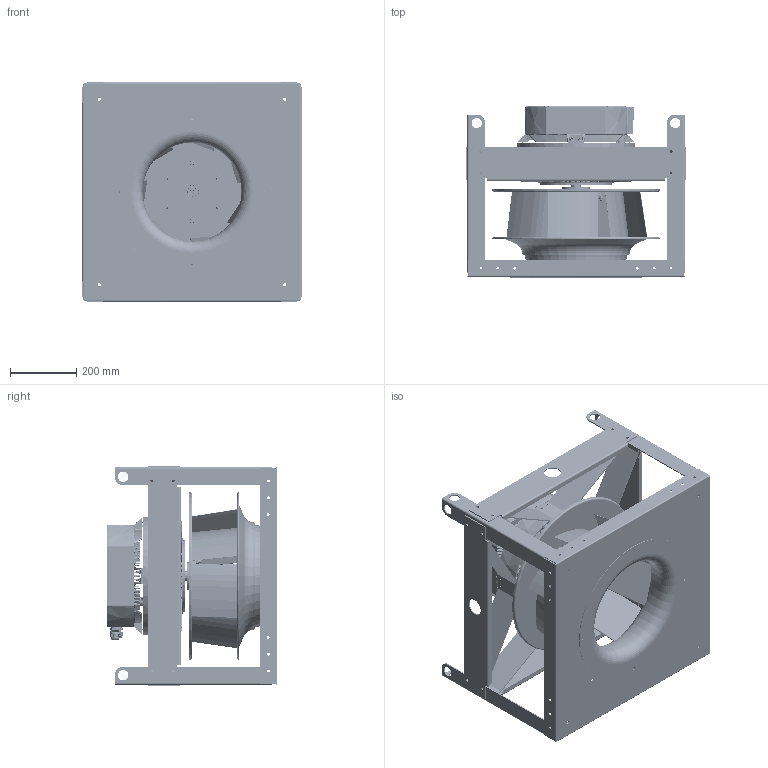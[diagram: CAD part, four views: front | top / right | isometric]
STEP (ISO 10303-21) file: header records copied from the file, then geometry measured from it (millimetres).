
FILE_DESCRIPTION (( 'STEP AP214' ), '1' );
FILE_NAME ('655780.STEP', '2026-06-10T15:45:55', ( '' ), ( '' ), 'SwSTEP 2.0', 'SolidWorks 2023', '' );
FILE_SCHEMA (( 'AUTOMOTIVE_DESIGN' ));
Length unit declared in the file: inch
Products named in the file (8): 651605_651605; 925250CS_925250CS; SXPI STRAP_651579; 651604_651604; 768048CS_748048CS; 655780; 651567_651567; 768036CS_768036CS
Assembly tree (16 placements, depth 2):
  655780
    651567_651567
    651604_651604  x4
    651605_651605  x4
    925250CS_925250CS
    768036CS_768036CS
    768048CS_748048CS
    SXPI STRAP_651579  x4
Bounding box: 663.7 x 516 x 663.7 mm (x, y, z)
Volume: 5816036.9 mm3; surface area: 5228061.5 mm2
Topology: 50 solids, 177 shells, 4221 faces, 12953 edges, 8685 vertices
Faces by surface type: cylinder 1248, plane 1157, bspline 1036, cone 411, torus 357, sphere 12
Full cylindrical faces by diameter (mm): 2.9 x2, 3.962 x4, 5.105 x16, 5.5 x6, 7.137 x16, 7.544 x1, 7.937 x2, 7.938 x2, 8.5 x1, 8.738 x84, 8.8 x12, 10.1 x1, 10.2 x1, 11.8 x8, 12.5 x1, 12.6 x1, 13 x7, 14 x1, 17.462 x4, 21.847 x1, 23.5 x1, 25.5 x4, 26.2 x1, 26.35 x1, 26.5 x1, 26.67 x1, 28.575 x1, 29.591 x1, 29.75 x1, 31.75 x8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
Entity records: 275899 total; most frequent: CARTESIAN_POINT 179688, ORIENTED_EDGE 19683, DIRECTION 17435, EDGE_CURVE 11912, VERTEX_POINT 8206, AXIS2_PLACEMENT_3D 6937, EDGE_LOOP 4739, FACE_OUTER_BOUND 4093
